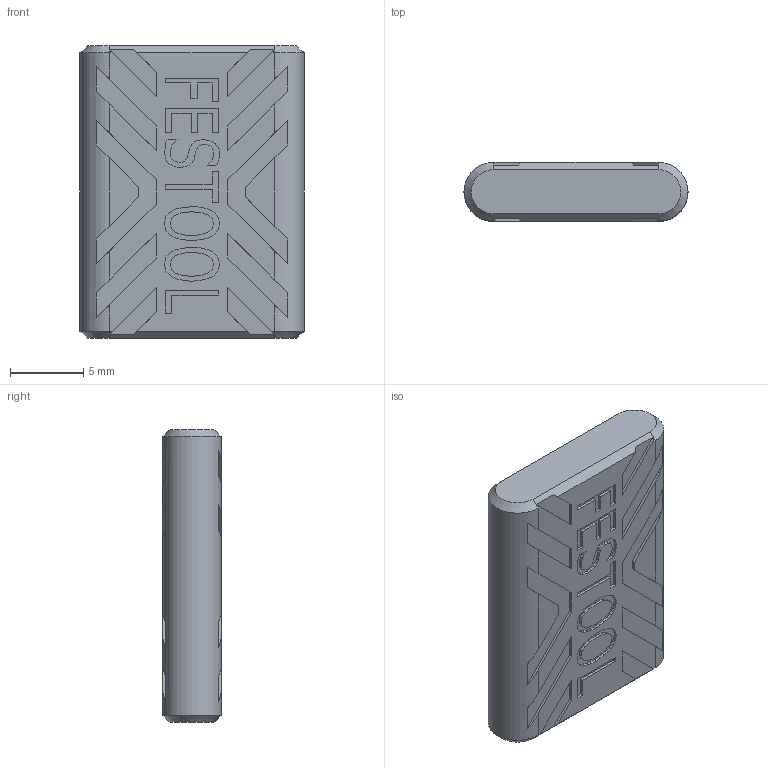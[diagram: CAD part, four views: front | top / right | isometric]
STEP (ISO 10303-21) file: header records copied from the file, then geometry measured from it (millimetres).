
FILE_DESCRIPTION(('Creo Elements/Direct Modeling STEP Export'),'2;1');
FILE_NAME('Domino_4x20.stp','2024-01-19T 8:04:44',(''),(''),'Creo Elements/Direct Modeling STEP processor for AP214 (Solid Model)','Creo Elements/Direct Modeling 20.5A 14-Oct-2022 (C) Parametric Technology GmbH','');
FILE_SCHEMA(('AUTOMOTIVE_DESIGN { 1 0 10303 214 1 1 1 1 }'));
Length unit declared in the file: millimetre
Products named in the file (1): 4x20_00475884
Bounding box: 15.3 x 4 x 20 mm (x, y, z)
Volume: 1114.2 mm3; surface area: 877.2 mm2
Topology: 1 solids, 1 shells, 462 faces, 1327 edges, 882 vertices
Faces by surface type: plane 456, cone 4, cylinder 2
Entity records: 14673 total; most frequent: CARTESIAN_POINT 2784, ORIENTED_EDGE 2654, DIRECTION 2165, EDGE_CURVE 1327, VECTOR 1223, LINE 1223, VERTEX_POINT 882, EDGE_LOOP 477
